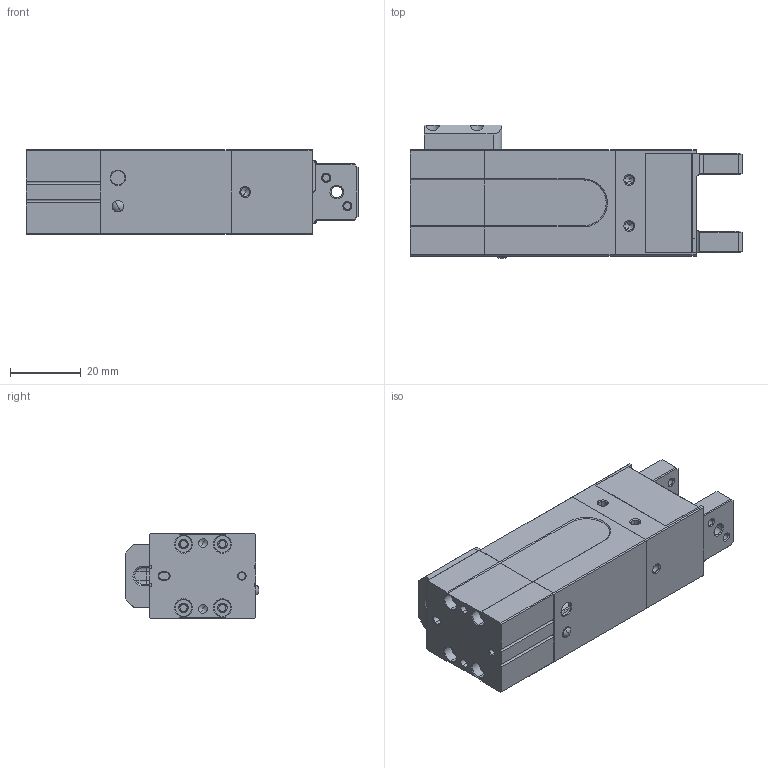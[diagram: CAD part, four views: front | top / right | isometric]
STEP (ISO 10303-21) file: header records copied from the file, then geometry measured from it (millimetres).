
FILE_DESCRIPTION(('CATIA V5 STEP Exchange'),'2;1');
FILE_NAME('F:\罗秋杰\夹爪Z-EFG\EFG-8S\A1.8（侧盖出线）\外发模型\EFG-8-CG.stp','2022-04-06T08:24:21+00:00',('none'),('none'),'CATIA Version 5 Release 20 GA (IN-10)','CATIA V5 STEP AP203','none');
FILE_SCHEMA(('CONFIG_CONTROL_DESIGN'));
Length unit declared in the file: millimetre
Products named in the file (1): EFG-8 V4.0_AllCATPart
Bounding box: 93.9 x 37.8 x 24 mm (x, y, z)
Volume: 40067 mm3; surface area: 23842 mm2
Topology: 4 solids, 8 shells, 694 faces, 1708 edges, 1029 vertices
Faces by surface type: plane 345, cylinder 212, cone 133, sphere 2, bspline 2
Entity records: 18870 total; most frequent: CARTESIAN_POINT 3712, ORIENTED_EDGE 3348, DIRECTION 2572, EDGE_CURVE 1674, AXIS2_PLACEMENT_3D 1051, VERTEX_POINT 1029, VECTOR 1007, LINE 1007
